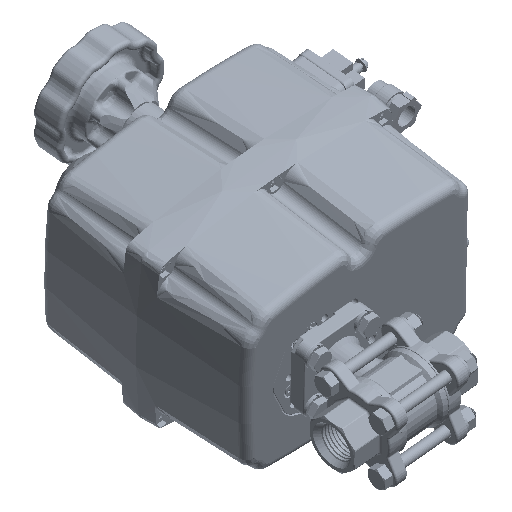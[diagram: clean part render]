
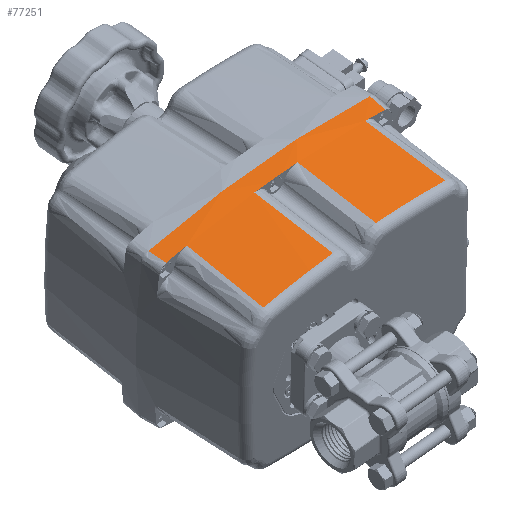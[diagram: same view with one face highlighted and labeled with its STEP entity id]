
A CAD part, isometric view. The second image highlights one B-rep face of the part: STEP entity #77251.
In plain terms, the highlighted conical face has half-angle 4 degrees and reference radius 403.75 mm.
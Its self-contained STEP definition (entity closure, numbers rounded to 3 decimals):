
#70137=CARTESIAN_POINT('',(-62.214,66.081,-41.788));
#70138=VERTEX_POINT('',#70137);
#70152=CARTESIAN_POINT('',(-88.126,66.081,-44.511));
#70153=VERTEX_POINT('',#70152);
#70154=CARTESIAN_POINT('',(-33.376,115.175,-440.797));
#70155=DIRECTION('',(0.013,-0.993,-0.121));
#70156=DIRECTION('',(-0.995,0.,-0.105));
#70157=AXIS2_PLACEMENT_3D('',#70154,#70155,#70156);
#70158=CIRCLE('',#70157,403.051);
#70159=EDGE_CURVE('',#70138,#70153,#70158,.T.);
#70872=CARTESIAN_POINT('',(-140.456,66.722,-55.263));
#70873=VERTEX_POINT('',#70872);
#70908=CARTESIAN_POINT('',(-141.285,76.574,-53.525));
#70909=VERTEX_POINT('',#70908);
#70910=CARTESIAN_POINT('',(-140.456,66.722,-55.263));
#70911=CARTESIAN_POINT('',(-140.688,69.477,-54.777));
#70912=CARTESIAN_POINT('',(-140.964,72.761,-54.197));
#70913=CARTESIAN_POINT('',(-141.24,76.045,-53.618));
#70914=CARTESIAN_POINT('',(-141.285,76.574,-53.525));
#70915=B_SPLINE_CURVE_WITH_KNOTS('',3,(#70910,#70911,#70912,#70913,#70914),.UNSPECIFIED.,.F.,.U.,(4,1,4),(5.021,13.441,15.06),.UNSPECIFIED.);
#70916=EDGE_CURVE('',#70873,#70909,#70915,.T.);
#70982=CARTESIAN_POINT('',(-128.337,66.495,-52.129));
#70983=VERTEX_POINT('',#70982);
#70997=CARTESIAN_POINT('',(-33.376,115.175,-440.797));
#70998=DIRECTION('',(0.013,-0.993,-0.121));
#70999=DIRECTION('',(-0.995,0.,-0.105));
#71000=AXIS2_PLACEMENT_3D('',#70997,#70998,#70999);
#71001=CIRCLE('',#71000,403.051);
#71002=EDGE_CURVE('',#70983,#70873,#71001,.T.);
#71173=CARTESIAN_POINT('',(-8.856,66.721,-41.421));
#71174=VERTEX_POINT('',#71173);
#71209=CARTESIAN_POINT('',(-21.298,66.495,-40.879));
#71210=VERTEX_POINT('',#71209);
#71211=CARTESIAN_POINT('',(-33.376,115.175,-440.797));
#71212=DIRECTION('',(0.013,-0.993,-0.121));
#71213=DIRECTION('',(-0.995,0.,-0.105));
#71214=AXIS2_PLACEMENT_3D('',#71211,#71212,#71213);
#71215=CIRCLE('',#71214,403.051);
#71216=EDGE_CURVE('',#71174,#71210,#71215,.T.);
#71408=CARTESIAN_POINT('',(-8.342,76.574,-39.552));
#71409=VERTEX_POINT('',#71408);
#71444=CARTESIAN_POINT('',(-8.342,76.574,-39.552));
#71445=CARTESIAN_POINT('',(-8.37,76.045,-39.652));
#71446=CARTESIAN_POINT('',(-8.398,75.516,-39.753));
#71447=CARTESIAN_POINT('',(-8.569,72.231,-40.376));
#71448=CARTESIAN_POINT('',(-8.713,69.476,-40.898));
#71449=CARTESIAN_POINT('',(-8.856,66.721,-41.421));
#71450=B_SPLINE_CURVE_WITH_KNOTS('',3,(#71444,#71445,#71446,#71447,#71448,#71449),.UNSPECIFIED.,.F.,.U.,(4,2,4),(5.024,6.642,15.066),.UNSPECIFIED.);
#71451=EDGE_CURVE('',#71409,#71174,#71450,.T.);
#77127=CARTESIAN_POINT('',(-19.253,20.417,-49.854));
#77128=VERTEX_POINT('',#77127);
#77164=CARTESIAN_POINT('',(-21.298,66.495,-40.879));
#77165=CARTESIAN_POINT('',(-21.252,65.093,-41.151));
#77166=CARTESIAN_POINT('',(-21.204,63.691,-41.424));
#77167=CARTESIAN_POINT('',(-21.118,61.25,-41.899));
#77168=CARTESIAN_POINT('',(-21.081,60.211,-42.101));
#77169=CARTESIAN_POINT('',(-20.927,55.978,-42.924));
#77170=CARTESIAN_POINT('',(-20.804,52.784,-43.545));
#77171=CARTESIAN_POINT('',(-20.464,44.48,-45.161));
#77172=CARTESIAN_POINT('',(-20.236,39.372,-46.157));
#77173=CARTESIAN_POINT('',(-19.76,29.647,-48.052));
#77174=CARTESIAN_POINT('',(-19.517,25.031,-48.953));
#77175=CARTESIAN_POINT('',(-19.254,20.417,-49.854));
#77176=B_SPLINE_CURVE_WITH_KNOTS('',3,(#77164,#77165,#77166,#77167,#77168,#77169,#77170,#77171,#77172,#77173,#77174,#77175),.UNSPECIFIED.,.F.,.U.,(4,2,2,2,2,4),(13.201,17.487,20.665,30.433,46.062,60.189),.UNSPECIFIED.);
#77177=EDGE_CURVE('',#71210,#77128,#77176,.T.);
#77182=CARTESIAN_POINT('',(-33.503,125.1,-439.585));
#77183=DIRECTION('',(-0.013,0.993,0.121));
#77184=DIRECTION('',(-0.995,0.,-0.105));
#77185=AXIS2_PLACEMENT_3D('',#77182,#77183,#77184);
#77186=CONICAL_SURFACE('',#77185,403.75,4.);
#77187=CARTESIAN_POINT('',(-87.191,19.981,-53.425));
#77188=VERTEX_POINT('',#77187);
#77189=CARTESIAN_POINT('',(-128.472,20.417,-61.333));
#77190=VERTEX_POINT('',#77189);
#77191=CARTESIAN_POINT('',(-32.779,68.675,-446.475));
#77192=DIRECTION('',(0.013,-0.993,-0.121));
#77193=DIRECTION('',(-0.188,-0.121,0.975));
#77194=AXIS2_PLACEMENT_3D('',#77191,#77192,#77193);
#77195=CIRCLE('',#77194,399.775);
#77196=EDGE_CURVE('',#77188,#77190,#77195,.T.);
#77197=ORIENTED_EDGE('',*,*,#77196,.F.);
#77198=CARTESIAN_POINT('',(-88.126,66.081,-44.511));
#77199=DIRECTION('',(0.02,-0.982,-0.19));
#77200=VECTOR('',#77199,46.963);
#77201=LINE('',#77198,#77200);
#77202=EDGE_CURVE('',#70153,#77188,#77201,.T.);
#77203=ORIENTED_EDGE('',*,*,#77202,.F.);
#77204=ORIENTED_EDGE('',*,*,#70159,.F.);
#77205=CARTESIAN_POINT('',(-61.276,19.981,-50.701));
#77206=VERTEX_POINT('',#77205);
#77207=CARTESIAN_POINT('',(-61.276,19.981,-50.701));
#77208=DIRECTION('',(-0.02,0.982,0.19));
#77209=VECTOR('',#77208,46.963);
#77210=LINE('',#77207,#77209);
#77211=EDGE_CURVE('',#77206,#70138,#77210,.T.);
#77212=ORIENTED_EDGE('',*,*,#77211,.F.);
#77213=CARTESIAN_POINT('',(-32.779,68.675,-446.475));
#77214=DIRECTION('',(0.013,-0.993,-0.121));
#77215=DIRECTION('',(-0.018,-0.121,0.992));
#77216=AXIS2_PLACEMENT_3D('',#77213,#77214,#77215);
#77217=CIRCLE('',#77216,399.775);
#77218=EDGE_CURVE('',#77128,#77206,#77217,.T.);
#77219=ORIENTED_EDGE('',*,*,#77218,.F.);
#77220=ORIENTED_EDGE('',*,*,#77177,.F.);
#77221=ORIENTED_EDGE('',*,*,#71216,.F.);
#77222=ORIENTED_EDGE('',*,*,#71451,.F.);
#77223=CARTESIAN_POINT('',(-33.503,125.1,-439.585));
#77224=DIRECTION('',(-0.013,0.993,0.121));
#77225=DIRECTION('',(-0.995,0.,-0.105));
#77226=AXIS2_PLACEMENT_3D('',#77223,#77224,#77225);
#77227=CIRCLE('',#77226,403.75);
#77228=EDGE_CURVE('',#70909,#71409,#77227,.T.);
#77229=ORIENTED_EDGE('',*,*,#77228,.F.);
#77230=ORIENTED_EDGE('',*,*,#70916,.F.);
#77231=ORIENTED_EDGE('',*,*,#71002,.F.);
#77232=CARTESIAN_POINT('',(-128.472,20.417,-61.333));
#77233=CARTESIAN_POINT('',(-128.453,21.647,-61.084));
#77234=CARTESIAN_POINT('',(-128.435,22.878,-60.834));
#77235=CARTESIAN_POINT('',(-128.398,25.752,-60.253));
#77236=CARTESIAN_POINT('',(-128.379,27.395,-59.921));
#77237=CARTESIAN_POINT('',(-128.352,30.064,-59.383));
#77238=CARTESIAN_POINT('',(-128.342,31.091,-59.176));
#77239=CARTESIAN_POINT('',(-128.306,35.31,-58.327));
#77240=CARTESIAN_POINT('',(-128.288,38.503,-57.687));
#77241=CARTESIAN_POINT('',(-128.259,46.805,-56.028));
#77242=CARTESIAN_POINT('',(-128.262,51.915,-55.012));
#77243=CARTESIAN_POINT('',(-128.293,60.181,-53.375));
#77244=CARTESIAN_POINT('',(-128.312,63.338,-52.751));
#77245=CARTESIAN_POINT('',(-128.337,66.495,-52.129));
#77246=B_SPLINE_CURVE_WITH_KNOTS('',3,(#77232,#77233,#77234,#77235,#77236,#77237,#77238,#77239,#77240,#77241,#77242,#77243,#77244,#77245),.UNSPECIFIED.,.F.,.U.,(4,2,2,2,2,2,4),(17.956,21.724,26.752,29.895,39.663,55.292,64.945),.UNSPECIFIED.);
#77247=EDGE_CURVE('',#77190,#70983,#77246,.T.);
#77248=ORIENTED_EDGE('',*,*,#77247,.F.);
#77249=EDGE_LOOP('',(#77197,#77203,#77204,#77212,#77219,#77220,#77221,#77222,#77229,#77230,#77231,#77248));
#77250=FACE_OUTER_BOUND('',#77249,.T.);
#77251=ADVANCED_FACE('',(#77250),#77186,.T.);
